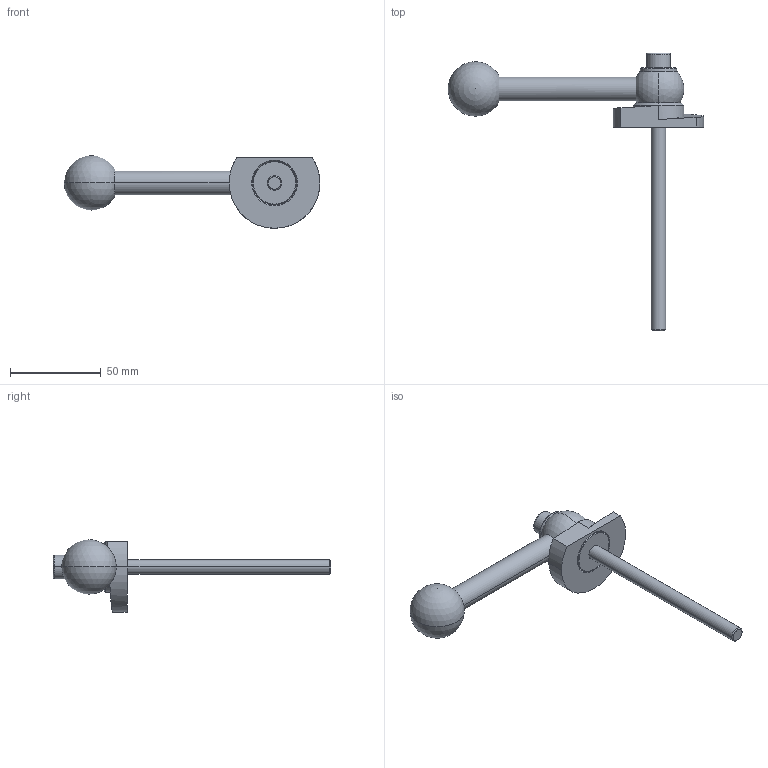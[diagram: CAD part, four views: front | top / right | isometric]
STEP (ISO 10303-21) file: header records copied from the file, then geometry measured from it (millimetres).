
FILE_DESCRIPTION (( 'STEP AP214' ), '1' );
FILE_NAME ('918.1-50-GVS-R-112.step', '2024-05-15T13:02:07', ( '' ), ( '' ), 'SwSTEP 2.0', 'SolidWorks 2022', '' );
FILE_SCHEMA (( 'AUTOMOTIVE_DESIGN' ));
Length unit declared in the file: millimetre
Products named in the file (1): 918.1-50-GVS-R-112
Bounding box: 141 x 153 x 40 mm (x, y, z)
Volume: 56604 mm3; surface area: 18158.7 mm2
Topology: 1 solids, 1 shells, 62 faces, 141 edges, 89 vertices
Faces by surface type: plane 20, cylinder 19, cone 14, sphere 4, bspline 3, torus 2
Entity records: 2011 total; most frequent: CARTESIAN_POINT 618, DIRECTION 305, ORIENTED_EDGE 262, EDGE_CURVE 131, AXIS2_PLACEMENT_3D 125, VERTEX_POINT 83, EDGE_LOOP 74, CIRCLE 65
